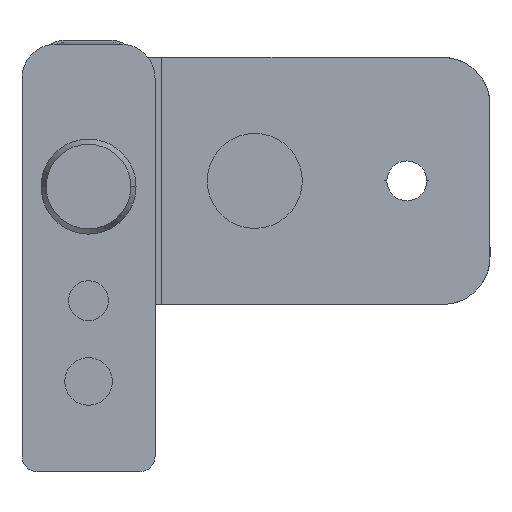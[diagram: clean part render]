
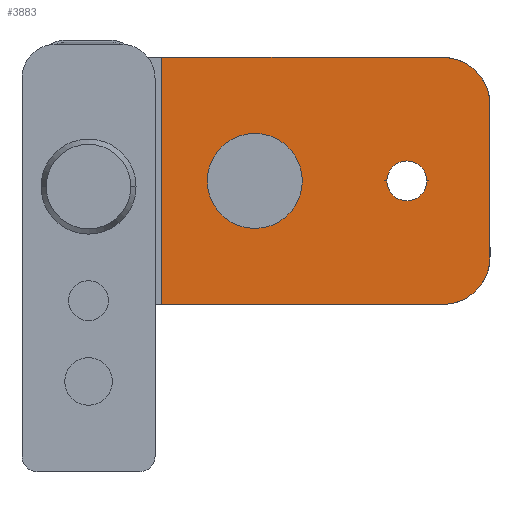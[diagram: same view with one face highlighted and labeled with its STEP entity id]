
A CAD part, front view. The second image highlights one B-rep face of the part: STEP entity #3883.
In plain terms, the highlighted planar face has unit normal (0, -1, 0).
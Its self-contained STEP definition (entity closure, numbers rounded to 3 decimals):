
#3 = EDGE_CURVE ( 'NONE', #3415, #2950, #2188, .T. ) ;
#14 = VERTEX_POINT ( 'NONE', #1547 ) ;
#18 = VERTEX_POINT ( 'NONE', #1551 ) ;
#24 = VERTEX_POINT ( 'NONE', #1557 ) ;
#173 = CARTESIAN_POINT ( 'NONE',  ( 35.6, 267., 0.6 ) ) ;
#283 = CARTESIAN_POINT ( 'NONE',  ( 42.25, 267., 13.6 ) ) ;
#284 = DIRECTION ( 'NONE',  ( 0., 0., -1. ) ) ;
#762 = CARTESIAN_POINT ( 'NONE',  ( 7.7, 267., 13.6 ) ) ;
#924 = CARTESIAN_POINT ( 'NONE',  ( 31.4, 267., 0.6 ) ) ;
#1202 = CARTESIAN_POINT ( 'NONE',  ( 37.25, 267., -7.4 ) ) ;
#1203 = DIRECTION ( 'NONE',  ( 0., 1., 0. ) ) ;
#1204 = DIRECTION ( 'NONE',  ( 1., 0., 0. ) ) ;
#1216 = CARTESIAN_POINT ( 'NONE',  ( 42.25, 267., 13.6 ) ) ;
#1217 = DIRECTION ( 'NONE',  ( -1., 0., 0. ) ) ;
#1222 = CARTESIAN_POINT ( 'NONE',  ( 33.5, 267., 0.6 ) ) ;
#1223 = DIRECTION ( 'NONE',  ( 0., -1., 0. ) ) ;
#1224 = DIRECTION ( 'NONE',  ( 1., 0., 0. ) ) ;
#1225 = CARTESIAN_POINT ( 'NONE',  ( 37.25, 267., 8.6 ) ) ;
#1226 = DIRECTION ( 'NONE',  ( 0., 1., 0. ) ) ;
#1227 = DIRECTION ( 'NONE',  ( 1., 0., 0. ) ) ;
#1228 = CARTESIAN_POINT ( 'NONE',  ( 7.7, 267., 13.6 ) ) ;
#1229 = DIRECTION ( 'NONE',  ( 0., 0., -1. ) ) ;
#1230 = CARTESIAN_POINT ( 'NONE',  ( 42.25, 267., -12.4 ) ) ;
#1231 = DIRECTION ( 'NONE',  ( -1., 0., 0. ) ) ;
#1356 = VERTEX_POINT ( 'NONE', #762 ) ;
#1399 = VERTEX_POINT ( 'NONE', #3529 ) ;
#1408 = VERTEX_POINT ( 'NONE', #3538 ) ;
#1547 = CARTESIAN_POINT ( 'NONE',  ( 42.25, 267., -7.4 ) ) ;
#1551 = CARTESIAN_POINT ( 'NONE',  ( 7.7, 267., -12.4 ) ) ;
#1557 = CARTESIAN_POINT ( 'NONE',  ( 37.25, 267., 13.6 ) ) ;
#1591 = AXIS2_PLACEMENT_3D ( 'NONE', #1202, #1203, #1204 ) ;
#1593 = AXIS2_PLACEMENT_3D ( 'NONE', #1222, #1223, #1224 ) ;
#1594 = AXIS2_PLACEMENT_3D ( 'NONE', #1225, #1226, #1227 ) ;
#1727 = AXIS2_PLACEMENT_3D ( 'NONE', #1935, #1936, #1937 ) ;
#1934 = PLANE ( 'NONE',  #1727 ) ;
#1935 = CARTESIAN_POINT ( 'NONE',  ( 42.25, 267., 13.6 ) ) ;
#1936 = DIRECTION ( 'NONE',  ( 0., 1., 0. ) ) ;
#1937 = DIRECTION ( 'NONE',  ( 1., 0., 0. ) ) ;
#2188 = CIRCLE ( 'NONE', #4411, 2.1 ) ;
#2299 = ORIENTED_EDGE ( 'NONE', *, *, #2370, .F. ) ;
#2300 = ORIENTED_EDGE ( 'NONE', *, *, #2382, .F. ) ;
#2301 = ORIENTED_EDGE ( 'NONE', *, *, #2381, .T. ) ;
#2302 = ORIENTED_EDGE ( 'NONE', *, *, #2376, .T. ) ;
#2303 = ORIENTED_EDGE ( 'NONE', *, *, #2380, .F. ) ;
#2304 = ORIENTED_EDGE ( 'NONE', *, *, #2994, .F. ) ;
#2305 = ORIENTED_EDGE ( 'NONE', *, *, #2379, .F. ) ;
#2306 = ORIENTED_EDGE ( 'NONE', *, *, #3, .F. ) ;
#2370 = EDGE_CURVE ( 'NONE', #14, #1399, #2441, .T. ) ;
#2376 = EDGE_CURVE ( 'NONE', #24, #1356, #2450, .T. ) ;
#2379 = EDGE_CURVE ( 'NONE', #2950, #3415, #2456, .T. ) ;
#2380 = EDGE_CURVE ( 'NONE', #24, #1408, #2458, .T. ) ;
#2381 = EDGE_CURVE ( 'NONE', #1356, #18, #2457, .T. ) ;
#2382 = EDGE_CURVE ( 'NONE', #1399, #18, #2460, .T. ) ;
#2441 = CIRCLE ( 'NONE', #1591, 5. ) ;
#2450 = LINE ( 'NONE', #1216, #2451 ) ;
#2451 = VECTOR ( 'NONE', #1217, 1000. ) ;
#2456 = CIRCLE ( 'NONE', #1593, 2.1 ) ;
#2457 = LINE ( 'NONE', #1228, #2459 ) ;
#2458 = CIRCLE ( 'NONE', #1594, 5. ) ;
#2459 = VECTOR ( 'NONE', #1229, 1000. ) ;
#2460 = LINE ( 'NONE', #1230, #2461 ) ;
#2461 = VECTOR ( 'NONE', #1231, 1000. ) ;
#2549 = LINE ( 'NONE', #283, #2550 ) ;
#2550 = VECTOR ( 'NONE', #284, 1000. ) ;
#2763 = FACE_BOUND ( 'NONE', #3590, .T. ) ;
#2764 = FACE_OUTER_BOUND ( 'NONE', #3589, .T. ) ;
#2950 = VERTEX_POINT ( 'NONE', #924 ) ;
#2960 = CARTESIAN_POINT ( 'NONE',  ( 33.5, 267., 0.6 ) ) ;
#2961 = DIRECTION ( 'NONE',  ( 0., -1., 0. ) ) ;
#2962 = DIRECTION ( 'NONE',  ( 1., 0., 0. ) ) ;
#2994 = EDGE_CURVE ( 'NONE', #1408, #14, #2549, .T. ) ;
#3415 = VERTEX_POINT ( 'NONE', #173 ) ;
#3529 = CARTESIAN_POINT ( 'NONE',  ( 37.25, 267., -12.4 ) ) ;
#3538 = CARTESIAN_POINT ( 'NONE',  ( 42.25, 267., 8.6 ) ) ;
#3589 = EDGE_LOOP ( 'NONE', ( #2304, #2303, #2302, #2301, #2300, #2299 ) ) ;
#3590 = EDGE_LOOP ( 'NONE', ( #2306, #2305 ) ) ;
#3883 = ADVANCED_FACE ( 'NONE', ( #2763, #2764 ), #1934, .F. ) ;
#4411 = AXIS2_PLACEMENT_3D ( 'NONE', #2960, #2961, #2962 ) ;
